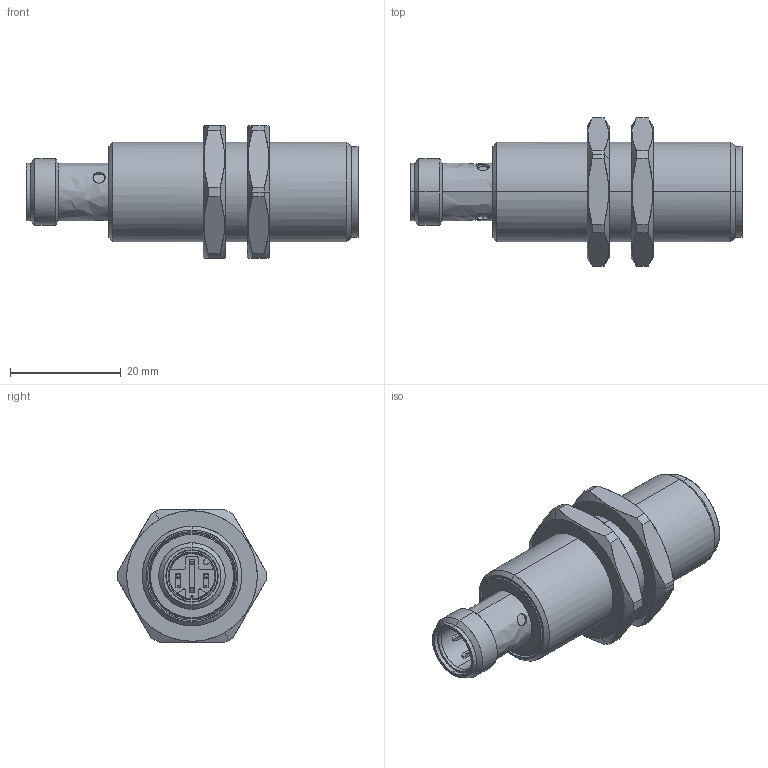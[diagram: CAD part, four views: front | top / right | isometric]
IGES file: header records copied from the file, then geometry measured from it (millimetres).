
Start section: Comment
Global section: file name: IFRD 18xx7A3_S14L.igs; native system:  By Spatial Corp.; preprocessor: XPlus GENERIC/IGES 3.0; author: Author; organization: Title; date: 20060328.143825; units: inch
Bounding box: 60 x 26.8 x 24 mm (x, y, z)
Surface area: 6429.2 mm2 (no closed solid volume)
Topology: 0 solids, 0 shells, 211 faces, 1074 edges, 1074 vertices
Faces by surface type: bspline 211
